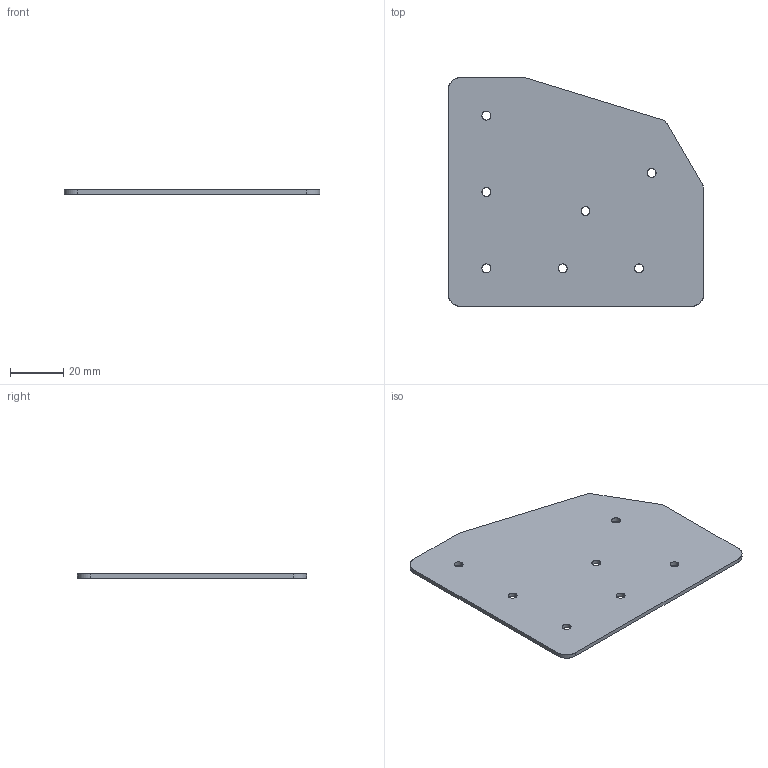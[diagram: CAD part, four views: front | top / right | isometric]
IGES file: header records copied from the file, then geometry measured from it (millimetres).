
Start section: SolidWorks IGES file using analytic representation for surfaces
Global section: file name: C:\Working\Gusset Convert\DRP-002-0015-01.igs; native system: SolidWorks 2010; preprocessor: SolidWorks 2010; author: mbush2; date: 100624.090607; units: inch
Bounding box: 95.67 x 85.72 x 1.52 mm (x, y, z)
Surface area: 15196.2 mm2 (no closed solid volume)
Topology: 0 solids, 0 shells, 28 faces, 628 edges, 628 vertices
Faces by surface type: revolution 20, bspline 8
